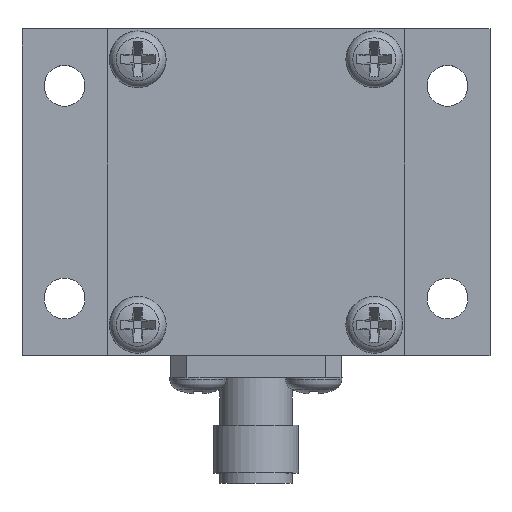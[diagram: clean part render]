
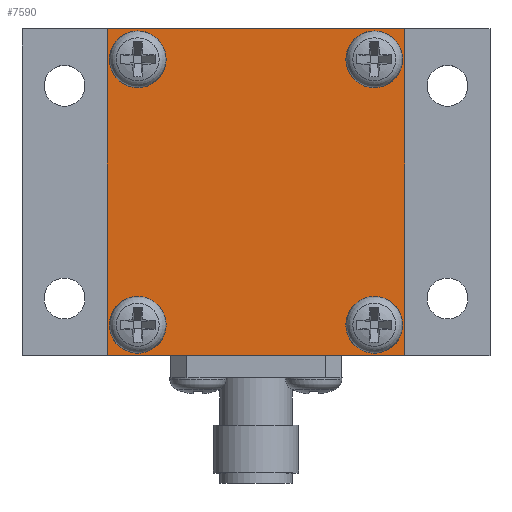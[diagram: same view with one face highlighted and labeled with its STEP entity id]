
A CAD part, top view. The second image highlights one B-rep face of the part: STEP entity #7590.
In plain terms, the highlighted planar face has unit normal (0, 0, 1).
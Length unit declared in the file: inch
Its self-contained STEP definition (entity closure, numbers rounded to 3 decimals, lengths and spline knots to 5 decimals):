
#241=CIRCLE('',#7805,0.0835);
#256=CIRCLE('',#7852,0.0835);
#271=CIRCLE('',#7899,0.0835);
#286=CIRCLE('',#7946,0.0835);
#1550=ORIENTED_EDGE('',*,*,#2073,.F.);
#1551=ORIENTED_EDGE('',*,*,#2124,.F.);
#1552=ORIENTED_EDGE('',*,*,#2175,.F.);
#1553=ORIENTED_EDGE('',*,*,#2226,.F.);
#1554=ORIENTED_EDGE('',*,*,#2519,.F.);
#1555=ORIENTED_EDGE('',*,*,#2501,.F.);
#1556=ORIENTED_EDGE('',*,*,#2518,.F.);
#1557=ORIENTED_EDGE('',*,*,#2520,.F.);
#2073=EDGE_CURVE('',#2769,#2769,#241,.T.);
#2124=EDGE_CURVE('',#2804,#2804,#256,.T.);
#2175=EDGE_CURVE('',#2839,#2839,#271,.T.);
#2226=EDGE_CURVE('',#2874,#2874,#286,.T.);
#2501=EDGE_CURVE('',#3065,#3066,#3447,.T.);
#2518=EDGE_CURVE('',#3076,#3065,#3463,.T.);
#2519=EDGE_CURVE('',#3066,#3077,#3464,.T.);
#2520=EDGE_CURVE('',#3077,#3076,#3465,.T.);
#2769=VERTEX_POINT('',#10328);
#2804=VERTEX_POINT('',#10446);
#2839=VERTEX_POINT('',#10564);
#2874=VERTEX_POINT('',#10682);
#3065=VERTEX_POINT('',#11317);
#3066=VERTEX_POINT('',#11319);
#3076=VERTEX_POINT('',#11352);
#3077=VERTEX_POINT('',#11356);
#3447=LINE('',#11318,#3745);
#3463=LINE('',#11353,#3761);
#3464=LINE('',#11355,#3762);
#3465=LINE('',#11357,#3763);
#3745=VECTOR('',#9543,39.37008);
#3761=VECTOR('',#9575,39.37008);
#3762=VECTOR('',#9578,39.37008);
#3763=VECTOR('',#9579,39.37008);
#4085=EDGE_LOOP('',(#1550));
#4086=EDGE_LOOP('',(#1551));
#4087=EDGE_LOOP('',(#1552));
#4088=EDGE_LOOP('',(#1553));
#4089=EDGE_LOOP('',(#1554,#1555,#1556,#1557));
#4562=FACE_BOUND('',#4085,.T.);
#4563=FACE_BOUND('',#4086,.T.);
#4564=FACE_BOUND('',#4087,.T.);
#4565=FACE_BOUND('',#4088,.T.);
#4566=FACE_BOUND('',#4089,.T.);
#4936=PLANE('',#8200);
#7590=ADVANCED_FACE('',(#4562,#4563,#4564,#4565,#4566),#4936,.F.);
#7805=AXIS2_PLACEMENT_3D('',#10327,#8590,#8591);
#7852=AXIS2_PLACEMENT_3D('',#10445,#8704,#8705);
#7899=AXIS2_PLACEMENT_3D('',#10563,#8818,#8819);
#7946=AXIS2_PLACEMENT_3D('',#10681,#8932,#8933);
#8200=AXIS2_PLACEMENT_3D('',#11354,#9576,#9577);
#8590=DIRECTION('',(0.,0.,1.));
#8591=DIRECTION('',(0.,-1.,0.));
#8704=DIRECTION('',(0.,0.,1.));
#8705=DIRECTION('',(0.,-1.,0.));
#8818=DIRECTION('',(0.,0.,1.));
#8819=DIRECTION('',(0.,-1.,0.));
#8932=DIRECTION('',(0.,0.,1.));
#8933=DIRECTION('',(0.,-1.,0.));
#9543=DIRECTION('',(1.,0.,0.));
#9575=DIRECTION('',(0.,1.,0.));
#9576=DIRECTION('',(0.,0.,-1.));
#9577=DIRECTION('',(0.,-1.,0.));
#9578=DIRECTION('',(0.,-1.,0.));
#9579=DIRECTION('',(-1.,0.,0.));
#10327=CARTESIAN_POINT('',(-0.3475,-0.39,0.547));
#10328=CARTESIAN_POINT('',(-0.3475,-0.4735,0.547));
#10445=CARTESIAN_POINT('',(-0.3475,0.39,0.547));
#10446=CARTESIAN_POINT('',(-0.3475,0.3065,0.547));
#10563=CARTESIAN_POINT('',(0.3475,-0.39,0.547));
#10564=CARTESIAN_POINT('',(0.3475,-0.4735,0.547));
#10681=CARTESIAN_POINT('',(0.3475,0.39,0.547));
#10682=CARTESIAN_POINT('',(0.3475,0.3065,0.547));
#11317=CARTESIAN_POINT('',(-0.4375,0.48,0.547));
#11318=CARTESIAN_POINT('',(-0.4375,0.48,0.547));
#11319=CARTESIAN_POINT('',(0.4375,0.48,0.547));
#11352=CARTESIAN_POINT('',(-0.4375,-0.48,0.547));
#11353=CARTESIAN_POINT('',(-0.4375,-0.48,0.547));
#11354=CARTESIAN_POINT('',(0.4375,-0.48,0.547));
#11355=CARTESIAN_POINT('',(0.4375,0.48,0.547));
#11356=CARTESIAN_POINT('',(0.4375,-0.48,0.547));
#11357=CARTESIAN_POINT('',(0.4375,-0.48,0.547));
